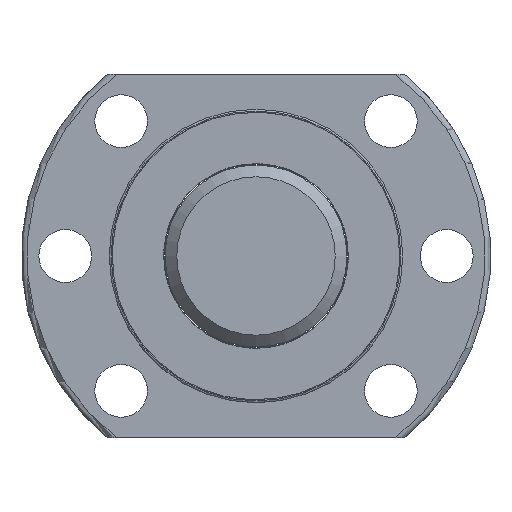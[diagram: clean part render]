
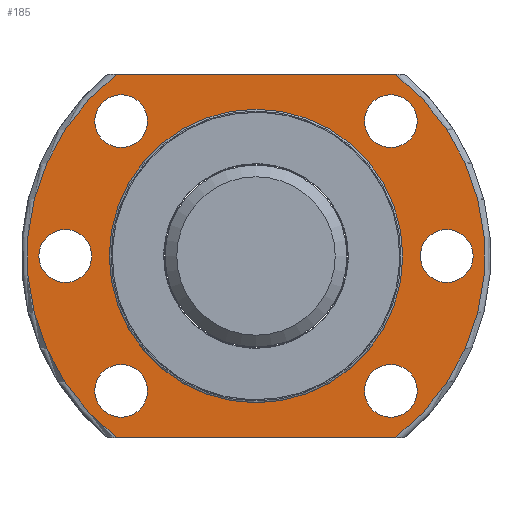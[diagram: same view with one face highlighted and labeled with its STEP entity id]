
A CAD part, left-side view. The second image highlights one B-rep face of the part: STEP entity #185.
In plain terms, the highlighted planar face has unit normal (-1, 0, 0).
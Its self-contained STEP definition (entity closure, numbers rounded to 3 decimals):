
#107=LINE('',#1268,#115);
#108=LINE('',#1272,#116);
#115=VECTOR('',#985,1.);
#116=VECTOR('',#988,1.);
#185=ADVANCED_FACE('',(#262,#263,#264,#265,#325,#266,#267,#268),#224,.F.);
#224=PLANE('',#828);
#262=FACE_BOUND('',#378,.T.);
#263=FACE_BOUND('',#379,.T.);
#264=FACE_BOUND('',#380,.T.);
#265=FACE_BOUND('',#381,.T.);
#266=FACE_BOUND('',#383,.T.);
#267=FACE_BOUND('',#384,.T.);
#268=FACE_BOUND('',#385,.T.);
#325=FACE_OUTER_BOUND('',#382,.T.);
#378=EDGE_LOOP('',(#494));
#379=EDGE_LOOP('',(#495));
#380=EDGE_LOOP('',(#496));
#381=EDGE_LOOP('',(#497));
#382=EDGE_LOOP('',(#498,#499,#500,#501));
#383=EDGE_LOOP('',(#502));
#384=EDGE_LOOP('',(#503));
#385=EDGE_LOOP('',(#504));
#494=ORIENTED_EDGE('',*,*,#682,.T.);
#495=ORIENTED_EDGE('',*,*,#683,.T.);
#496=ORIENTED_EDGE('',*,*,#684,.F.);
#497=ORIENTED_EDGE('',*,*,#685,.F.);
#498=ORIENTED_EDGE('',*,*,#667,.T.);
#499=ORIENTED_EDGE('',*,*,#686,.T.);
#500=ORIENTED_EDGE('',*,*,#687,.T.);
#501=ORIENTED_EDGE('',*,*,#688,.T.);
#502=ORIENTED_EDGE('',*,*,#689,.F.);
#503=ORIENTED_EDGE('',*,*,#690,.T.);
#504=ORIENTED_EDGE('',*,*,#691,.F.);
#603=VERTEX_POINT('',#1175);
#604=VERTEX_POINT('',#1177);
#616=VERTEX_POINT('',#1261);
#617=VERTEX_POINT('',#1263);
#618=VERTEX_POINT('',#1265);
#619=VERTEX_POINT('',#1267);
#620=VERTEX_POINT('',#1269);
#621=VERTEX_POINT('',#1271);
#622=VERTEX_POINT('',#1274);
#623=VERTEX_POINT('',#1276);
#624=VERTEX_POINT('',#1278);
#667=EDGE_CURVE('',#604,#603,#735,.T.);
#682=EDGE_CURVE('',#616,#616,#745,.T.);
#683=EDGE_CURVE('',#617,#617,#746,.T.);
#684=EDGE_CURVE('',#618,#618,#747,.T.);
#685=EDGE_CURVE('',#619,#619,#748,.T.);
#686=EDGE_CURVE('',#603,#620,#107,.T.);
#687=EDGE_CURVE('',#620,#621,#749,.T.);
#688=EDGE_CURVE('',#621,#604,#108,.T.);
#689=EDGE_CURVE('',#622,#622,#750,.T.);
#690=EDGE_CURVE('',#623,#623,#751,.T.);
#691=EDGE_CURVE('',#624,#624,#752,.T.);
#735=CIRCLE('',#807,39.);
#745=CIRCLE('',#820,4.5);
#746=CIRCLE('',#821,4.5);
#747=CIRCLE('',#822,4.5);
#748=CIRCLE('',#823,25.);
#749=CIRCLE('',#824,39.);
#750=CIRCLE('',#825,4.5);
#751=CIRCLE('',#826,4.5);
#752=CIRCLE('',#827,4.5);
#807=AXIS2_PLACEMENT_3D('',#1176,#949,#950);
#820=AXIS2_PLACEMENT_3D('',#1260,#977,#978);
#821=AXIS2_PLACEMENT_3D('',#1262,#979,#980);
#822=AXIS2_PLACEMENT_3D('',#1264,#981,#982);
#823=AXIS2_PLACEMENT_3D('',#1266,#983,#984);
#824=AXIS2_PLACEMENT_3D('',#1270,#986,#987);
#825=AXIS2_PLACEMENT_3D('',#1273,#989,#990);
#826=AXIS2_PLACEMENT_3D('',#1275,#991,#992);
#827=AXIS2_PLACEMENT_3D('',#1277,#993,#994);
#828=AXIS2_PLACEMENT_3D('',#1279,#995,#996);
#949=DIRECTION('',(-1.,0.,0.));
#950=DIRECTION('',(0.,0.,-1.));
#977=DIRECTION('',(1.,0.,0.));
#978=DIRECTION('',(0.,0.,-1.));
#979=DIRECTION('',(1.,0.,0.));
#980=DIRECTION('',(0.,0.,-1.));
#981=DIRECTION('',(-1.,0.,0.));
#982=DIRECTION('',(0.,0.,-1.));
#983=DIRECTION('',(-1.,0.,0.));
#984=DIRECTION('',(0.,0.,1.));
#985=DIRECTION('',(0.,1.,0.));
#986=DIRECTION('',(-1.,0.,0.));
#987=DIRECTION('',(0.,0.,-1.));
#988=DIRECTION('',(0.,-1.,0.));
#989=DIRECTION('',(-1.,0.,0.));
#990=DIRECTION('',(0.,0.,-1.));
#991=DIRECTION('',(1.,0.,0.));
#992=DIRECTION('',(0.,0.,-1.));
#993=DIRECTION('',(-1.,0.,0.));
#994=DIRECTION('',(0.,0.,-1.));
#995=DIRECTION('',(1.,0.,0.));
#996=DIRECTION('',(0.,0.,-1.));
#1175=CARTESIAN_POINT('',(51.,-23.664,31.));
#1176=CARTESIAN_POINT('',(51.,0.,0.));
#1177=CARTESIAN_POINT('',(51.,-23.664,-31.));
#1260=CARTESIAN_POINT('',(51.,32.5,0.));
#1261=CARTESIAN_POINT('',(51.,32.5,-4.5));
#1262=CARTESIAN_POINT('',(51.,22.981,22.981));
#1263=CARTESIAN_POINT('',(51.,22.981,18.481));
#1264=CARTESIAN_POINT('',(51.,-32.5,0.));
#1265=CARTESIAN_POINT('',(51.,-32.5,-4.5));
#1266=CARTESIAN_POINT('',(51.,0.,0.));
#1267=CARTESIAN_POINT('',(51.,0.,25.));
#1268=CARTESIAN_POINT('',(51.,-35.107,31.));
#1269=CARTESIAN_POINT('',(51.,23.664,31.));
#1270=CARTESIAN_POINT('',(51.,0.,0.));
#1271=CARTESIAN_POINT('',(51.,23.664,-31.));
#1272=CARTESIAN_POINT('',(51.,-35.107,-31.));
#1273=CARTESIAN_POINT('',(51.,-22.981,22.981));
#1274=CARTESIAN_POINT('',(51.,-22.981,18.481));
#1275=CARTESIAN_POINT('',(51.,-22.981,-22.981));
#1276=CARTESIAN_POINT('',(51.,-22.981,-27.481));
#1277=CARTESIAN_POINT('',(51.,22.981,-22.981));
#1278=CARTESIAN_POINT('',(51.,22.981,-27.481));
#1279=CARTESIAN_POINT('',(51.,-35.107,0.));
